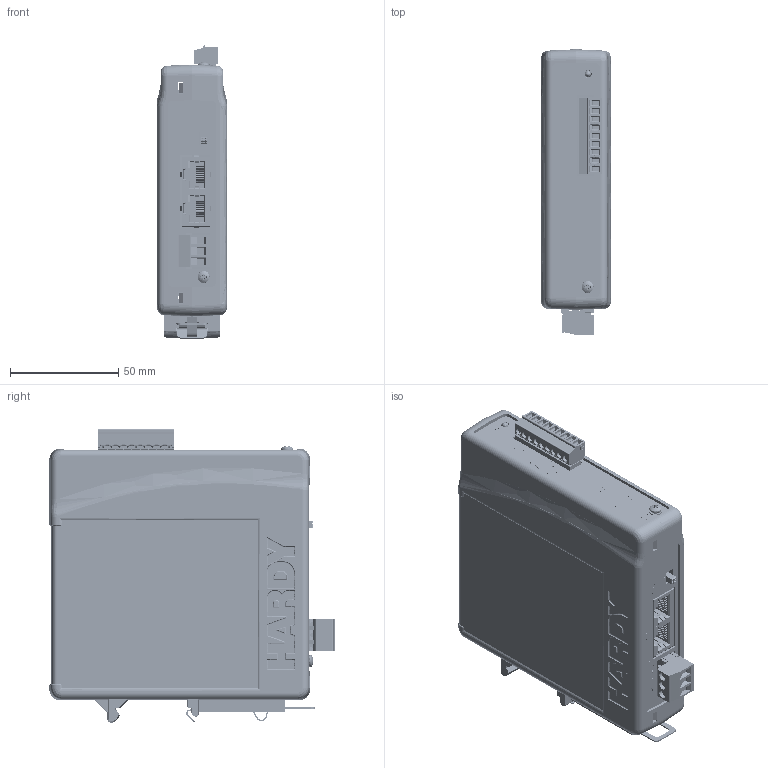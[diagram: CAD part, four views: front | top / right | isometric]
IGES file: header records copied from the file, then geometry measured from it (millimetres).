
Start section: SolidWorks IGES file using analytic representation for surfaces
Global section: file name: L:\HI\ENGINEER\Nate Scherrer\~6600 Series\6610\MWT Module With Connectors.IGS; native system: SolidWorks 2015; preprocessor: SolidWorks 2015; author: vach01; date: 151120.082355; units: inch
Bounding box: 32 x 131.79 x 135.61 mm (x, y, z)
Surface area: 132695.8 mm2 (no closed solid volume)
Topology: 0 solids, 0 shells, 7106 faces, 61008 edges, 60942 vertices
Faces by surface type: bspline 5680, revolution 1426
